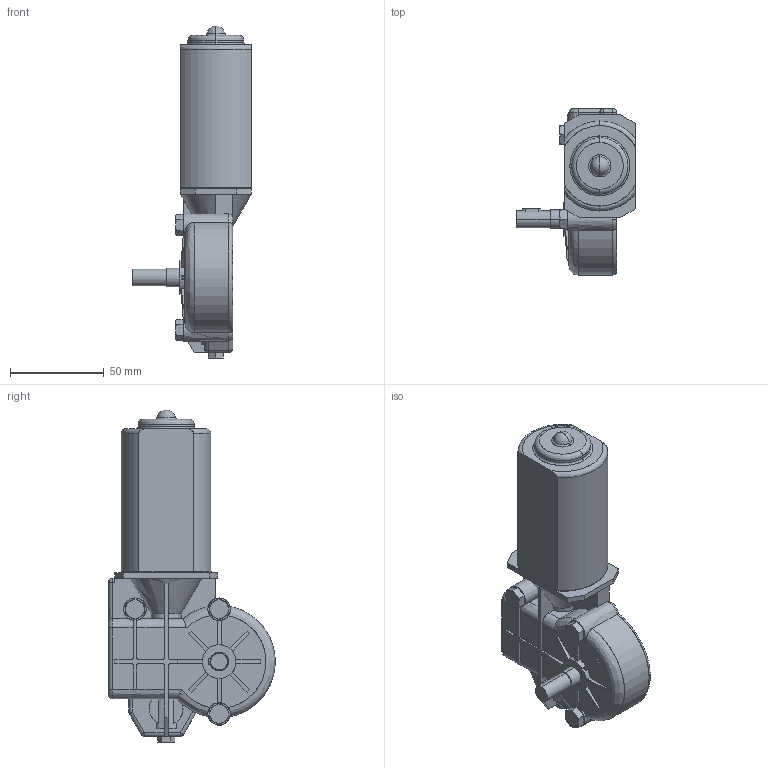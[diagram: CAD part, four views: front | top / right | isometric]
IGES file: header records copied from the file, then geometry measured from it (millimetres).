
Start section: SolidWorks IGES file using analytic representation for surfaces
Global section: file name: \\Uranus\R&D\plans\CATALOGUES\Topstock_Piece_IGES\316.IGS; native system: SolidWorks 2008; preprocessor: SolidWorks 2008; author: JUL; date: 090326.092054; units: millimetre
Bounding box: 63.5 x 89.03 x 177.5 mm (x, y, z)
Surface area: 38789 mm2 (no closed solid volume)
Topology: 0 solids, 0 shells, 284 faces, 3200 edges, 3185 vertices
Faces by surface type: bspline 159, revolution 125
